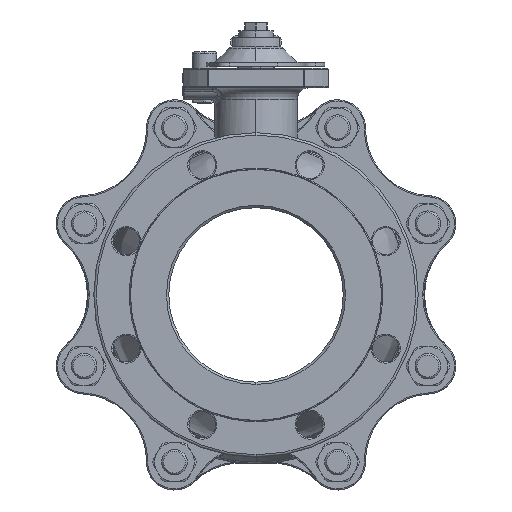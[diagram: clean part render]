
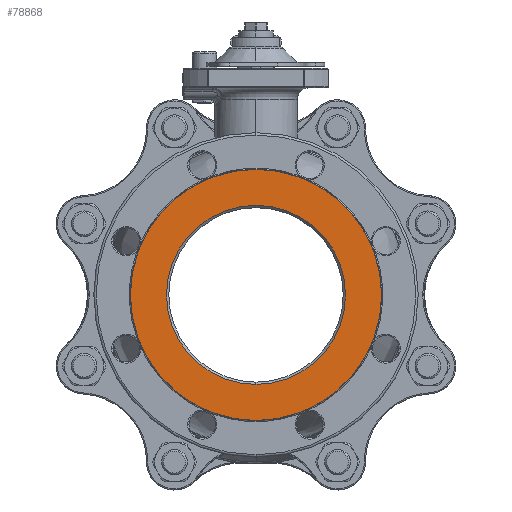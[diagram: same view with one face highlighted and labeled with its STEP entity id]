
A CAD part, left-side view. The second image highlights one B-rep face of the part: STEP entity #78868.
In plain terms, the highlighted planar face has unit normal (-1, 0, 0).
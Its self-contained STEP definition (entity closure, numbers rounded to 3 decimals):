
#15114=CARTESIAN_POINT('',(-184.,0.,0.));
#15115=DIRECTION('',(-1.,0.,0.));
#15116=DIRECTION('',(0.,0.,-1.));
#15117=AXIS2_PLACEMENT_3D('',#15114,#15115,#15116);
#15119=CARTESIAN_POINT('',(-184.,0.,0.));
#15120=DIRECTION('',(-1.,0.,0.));
#15121=DIRECTION('',(0.,0.,1.));
#15122=AXIS2_PLACEMENT_3D('',#15119,#15120,#15121);
#15124=CARTESIAN_POINT('',(-184.,0.,0.));
#15125=DIRECTION('',(-1.,0.,0.));
#15126=DIRECTION('',(0.,0.,1.));
#15127=AXIS2_PLACEMENT_3D('',#15124,#15125,#15126);
#15129=CARTESIAN_POINT('',(-184.,0.,0.));
#15130=DIRECTION('',(1.,0.,0.));
#15131=DIRECTION('',(0.,0.,1.));
#15132=AXIS2_PLACEMENT_3D('',#15129,#15130,#15131);
#47819=CARTESIAN_POINT('',(-184.,0.,77.));
#47820=CARTESIAN_POINT('',(-184.,0.,-77.));
#47821=VERTEX_POINT('',#47819);
#47822=VERTEX_POINT('',#47820);
#51815=CARTESIAN_POINT('',(-184.,0.,-108.));
#51816=CARTESIAN_POINT('',(-184.,0.,108.));
#51817=VERTEX_POINT('',#51815);
#51818=VERTEX_POINT('',#51816);
#78852=CARTESIAN_POINT('',(-184.,0.,0.));
#78853=DIRECTION('',(-1.,0.,0.));
#78854=DIRECTION('',(0.,0.,1.));
#78855=AXIS2_PLACEMENT_3D('',#78852,#78853,#78854);
#78856=PLANE('',#78855);
#78857=ORIENTED_EDGE('',*,*,#78834,.F.);
#78859=ORIENTED_EDGE('',*,*,#78858,.F.);
#78860=EDGE_LOOP('',(#78857,#78859));
#78861=FACE_OUTER_BOUND('',#78860,.F.);
#78863=ORIENTED_EDGE('',*,*,#78862,.T.);
#78865=ORIENTED_EDGE('',*,*,#78864,.F.);
#78866=EDGE_LOOP('',(#78863,#78865));
#78867=FACE_BOUND('',#78866,.F.);
#78868=ADVANCED_FACE('',(#78861,#78867),#78856,.T.);
#15118=CIRCLE('',#15117,108.);
#15123=CIRCLE('',#15122,108.);
#15128=CIRCLE('',#15127,77.);
#15133=CIRCLE('',#15132,77.);
#78834=EDGE_CURVE('',#51817,#51818,#15118,.T.);
#78858=EDGE_CURVE('',#51818,#51817,#15123,.T.);
#78862=EDGE_CURVE('',#47821,#47822,#15128,.T.);
#78864=EDGE_CURVE('',#47821,#47822,#15133,.T.);
